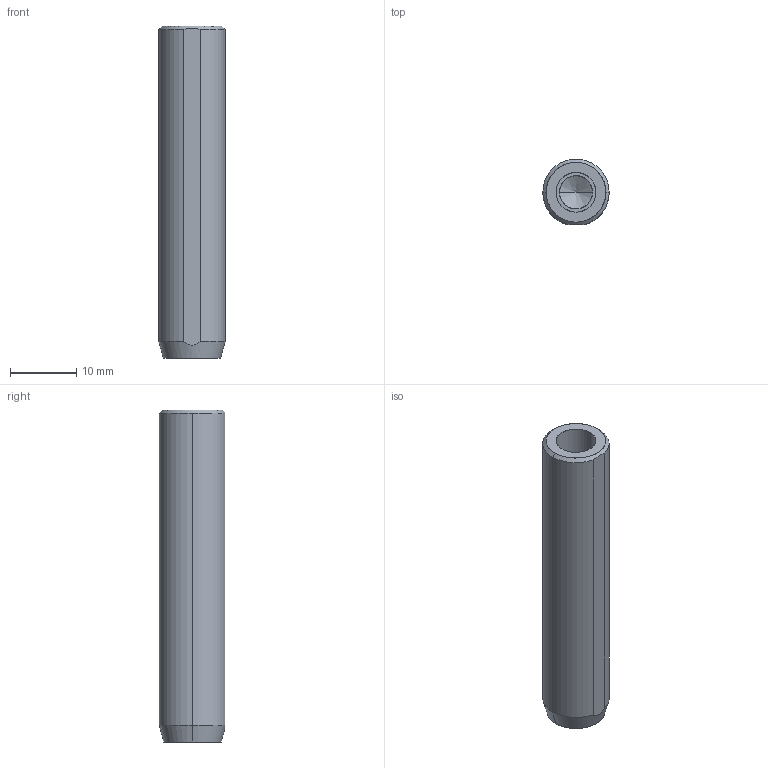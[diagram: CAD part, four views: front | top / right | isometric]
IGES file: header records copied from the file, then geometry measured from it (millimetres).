
Global section: file name: E:\UnigraphicsGraphicData\MISUMI_PRESS-PARTS\IGES\3d_mstm10-50_00434_r00.igs; native system: NX V5.0; preprocessor: UGS NX IGES V5.0; author: MISUMI; date: 20110105.161520; units: millimetre
Bounding box: 10 x 9.85 x 50 mm (x, y, z)
Surface area: 1933.7 mm2 (no closed solid volume)
Topology: 0 solids, 0 shells, 17 faces, 100 edges, 98 vertices
Faces by surface type: bspline 17
